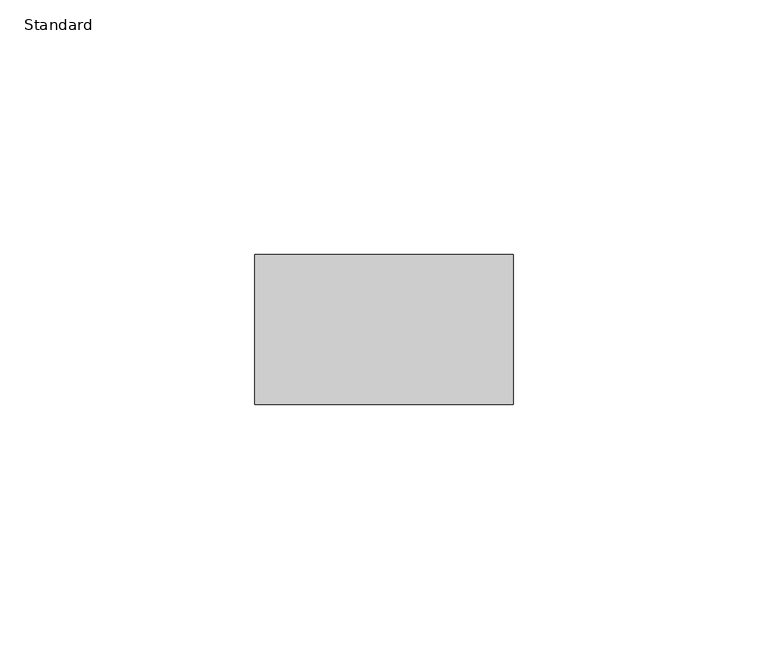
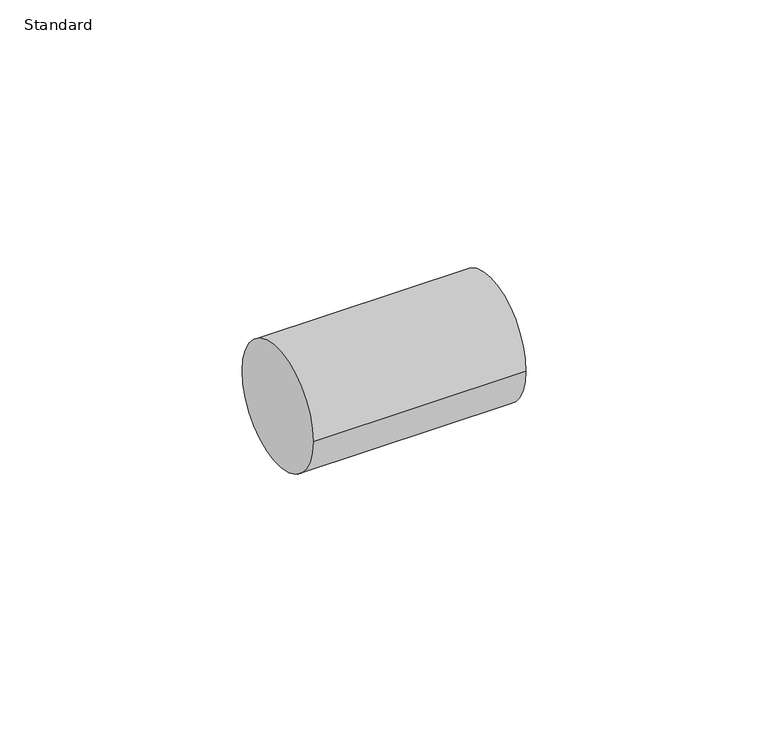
"""IFC4 building model written with IfcOpenShell, lengths in millimetres: pipe fitting geometry, Cap_Lubrizol_CPVC_FlowGuard_MX : Standard."""

from ifc_helpers import new_model, si_unit, point, frame, origin, origin_2d, place, context, project, spatial, circle_curve, trimmed, segment, composite_curve, outline, extrude, source, transform, mapped, element, save


def standard_70e3dae1(model_context):
    return source(origin(), model_context, "Body", "SweptSolid", [
        extrude(outline(composite_curve([segment(trimmed(circle_curve(origin_2d(), 14.7089844), [point((-14.7089844, 0.0))], [point((14.7089844, 0.0))], False, "CARTESIAN"), True, "CONTINUOUS"), segment(trimmed(circle_curve(origin_2d(), 14.7089844), [point((14.7089844, 0.0))], [point((-14.7089844, 0.0))], False, "CARTESIAN"), True, "CONTINUOUS")], self_intersect=False)), frame((0.0, 0.0, 0.0), z_axis=(1.0, 0.0, 0.0), x_axis=(0.0, 1.0, 0.0)), (0.0, 0.0, 1.0), 50.7621875),
    ])


if __name__ == "__main__":
    model = new_model("IFC4")
    model_context = context("Model", 3, world=origin())
    ifc_project = project(units=[si_unit("LENGTHUNIT", "METRE", prefix="MILLI")], contexts=[model_context])
    site = spatial("IfcSite", under=ifc_project)
    building = spatial("IfcBuilding", under=site)
    placement = place(None, origin())
    standard_shape = standard_70e3dae1(model_context)
    element("IfcPipeFitting", 1, ObjectType="Cap_Lubrizol_CPVC_FlowGuard_MX : Standard", at=placement, inside=building, context=model_context, shape_type="MappedRepresentation", body=[
        mapped(standard_shape, transform((0.0, 0.0, 0.0), x_axis=(1.0, 0.0, 0.0), y_axis=(0.0, 1.0, 0.0), z_axis=(0.0, 0.0, 1.0))),
    ])
    save(model, "model.ifc")
